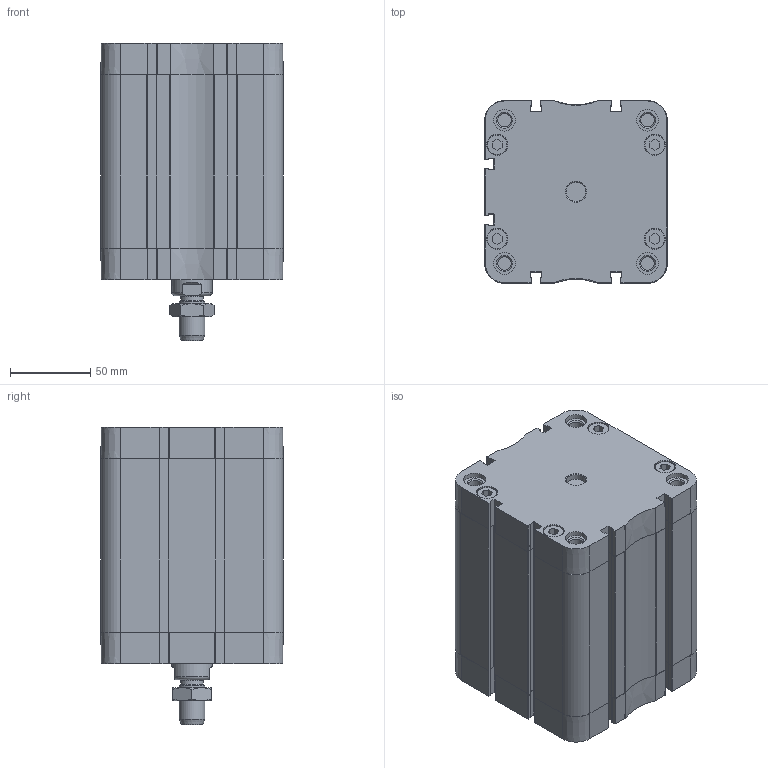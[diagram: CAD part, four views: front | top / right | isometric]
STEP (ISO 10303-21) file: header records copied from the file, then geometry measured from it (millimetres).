
FILE_DESCRIPTION(/* description */ ('Unknown'),/* implementation_level */ '2;1');
FILE_NAME(/* name */ 'ZIF 100_80',/* time_stamp */ '2024-11-12T12:59:09+01:00',/* author */ ('Unknown'),/* organization */ ('HAFNER Pneumatika Kft.'),/* preprocessor_version */ 'ST-DEVELOPER v18.102',/* originating_system */ 'Solid Edge',/* authorisation */ 'Unknown');
FILE_SCHEMA (('AUTOMOTIVE_DESIGN {1 0 10303 214 3 1 1}'));
Length unit declared in the file: millimetre
Products named in the file (6): ZIF 100_80; Kit_1; Profilrohr; Kit_2; Kolbenstange; Mutter
Assembly tree (5 placements, depth 2):
  ZIF 100_80
    Kit_1
    Profilrohr
    Kit_2
    Kolbenstange
    Mutter
Bounding box: 113.5 x 113.5 x 185 mm (x, y, z)
Volume: 1227510.3 mm3; surface area: 217223.9 mm2
Topology: 5 solids, 5 shells, 768 faces, 2044 edges, 1352 vertices
Faces by surface type: plane 360, cylinder 216, bspline 114, cone 56, torus 22
Full cylindrical faces by diameter (mm): 8.376 x8, 8.566 x2, 12 x1, 12.7 x4, 13.1 x8, 13.5 x8, 14 x1, 14.376 x1, 16 x1, 25 x1, 25.6 x1, 26.9 x1, 28 x1, 29.8 x1, 30 x1, 100 x2
Entity records: 28935 total; most frequent: CARTESIAN_POINT 6069, ORIENTED_EDGE 3838, DIRECTION 3478, EDGE_CURVE 1919, VERTEX_POINT 1317, AXIS2_PLACEMENT_3D 1185, LINE 1108, VECTOR 1108
